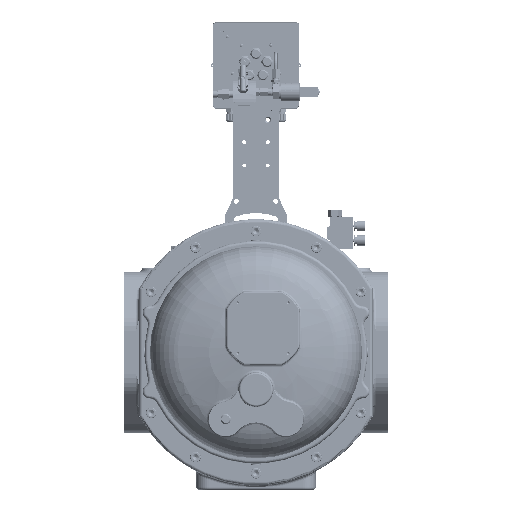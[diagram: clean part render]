
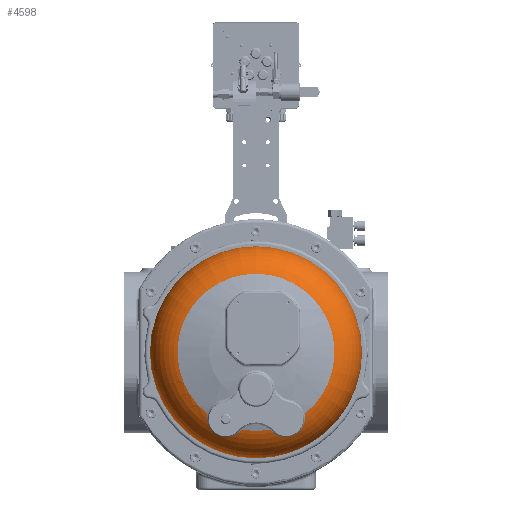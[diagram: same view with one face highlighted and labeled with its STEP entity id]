
A CAD part, left-side view. The second image highlights one B-rep face of the part: STEP entity #4598.
In plain terms, the highlighted toroidal (fillet/blend) face has major radius 113.213 mm and minor radius 67.949 mm.
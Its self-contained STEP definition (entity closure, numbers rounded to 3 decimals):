
#4598=ADVANCED_FACE('',(#300526,#300528),#300530,.T.);
#300526=FACE_OUTER_BOUND('',#300527,.T.);
#300527=EDGE_LOOP('',(#578187));
#300528=FACE_BOUND('',#300529,.T.);
#300529=EDGE_LOOP('',(#578188,#578189,#578190,#578191,#578192,#578193,#578194));
#300530=TOROIDAL_SURFACE('',#300531,113.213,67.949);
#300531=AXIS2_PLACEMENT_3D('',#300532,#300533,#300534);
#300532=CARTESIAN_POINT('',(-344.309,0.,0.));
#300533=DIRECTION('',(-1.,0.,0.));
#300534=DIRECTION('',(0.,0.,1.));
#578187=ORIENTED_EDGE('',*,*,#792199,.F.);
#578188=ORIENTED_EDGE('',*,*,#792200,.T.);
#578189=ORIENTED_EDGE('',*,*,#792166,.F.);
#578190=ORIENTED_EDGE('',*,*,#792165,.F.);
#578191=ORIENTED_EDGE('',*,*,#792201,.T.);
#578192=ORIENTED_EDGE('',*,*,#792202,.T.);
#578193=ORIENTED_EDGE('',*,*,#792203,.F.);
#578194=ORIENTED_EDGE('',*,*,#792204,.T.);
#792165=EDGE_CURVE('',#884358,#884360,#884361,.T.);
#792166=EDGE_CURVE('',#884360,#884350,#884362,.T.);
#792199=EDGE_CURVE('',#884418,#884418,#884419,.F.);
#792200=EDGE_CURVE('',#884420,#884350,#884421,.F.);
#792201=EDGE_CURVE('',#884358,#884422,#884423,.F.);
#792202=EDGE_CURVE('',#884422,#884424,#884425,.F.);
#792203=EDGE_CURVE('',#884426,#884424,#884427,.T.);
#792204=EDGE_CURVE('',#884426,#884420,#884428,.T.);
#884350=VERTEX_POINT('',#1055114);
#884358=VERTEX_POINT('',#1055171);
#884360=VERTEX_POINT('',#1055188);
#884361=CIRCLE('',#1055189,134.);
#884362=CIRCLE('',#1055193,134.);
#884418=VERTEX_POINT('',#1055659);
#884419=CIRCLE('',#1055660,181.);
#884420=VERTEX_POINT('',#1055664);
#884421=B_SPLINE_CURVE_WITH_KNOTS('',3,
(#1055665,#1055666,#1055667,#1055668,#1055669,#1055670,#1055671,#1055672,#1055673,
#1055674,#1055675,#1055676,#1055677,#1055678,#1055679,#1055680,#1055681,#1055682,
#1055683,#1055684,#1055685,#1055686,#1055687,#1055688,#1055689,#1055690,#1055691),
.UNSPECIFIED.,.F.,.F.,
(4,1,1,1,1,1,1,1,1,1,1,1,1,1,1,1,1,1,1,1,1,1,1,1,4),
(0.,0.067,0.125,0.179,0.233,0.284,
0.328,0.368,0.407,0.443,0.478,
0.51,0.539,0.564,0.593,0.624,
0.66,0.698,0.743,0.79,0.842,
0.89,0.934,0.969,1.),
.UNSPECIFIED.);
#884422=VERTEX_POINT('',#1055692);
#884423=B_SPLINE_CURVE_WITH_KNOTS('',3,
(#1055693,#1055694,#1055695,#1055696,#1055697,#1055698,#1055699,#1055700,#1055701,
#1055702,#1055703,#1055704,#1055705,#1055706,#1055707,#1055708,#1055709,#1055710,
#1055711,#1055712,#1055713,#1055714,#1055715,#1055716,#1055717,#1055718),
.UNSPECIFIED.,.F.,.F.,
(4,1,1,1,1,1,1,1,1,1,1,1,1,1,1,1,1,1,1,1,1,1,1,4),
(0.,0.074,0.138,0.188,0.237,0.28,
0.321,0.358,0.395,0.428,0.457,
0.481,0.506,0.533,0.565,0.601,
0.638,0.68,0.724,0.774,0.824,
0.875,0.934,1.),
.UNSPECIFIED.);
#884424=VERTEX_POINT('',#1055719);
#884425=B_SPLINE_CURVE_WITH_KNOTS('',3,
(#1055720,#1055721,#1055722,#1055723,#1055724,#1055725),
.UNSPECIFIED.,.F.,.F.,
(4,1,1,4),
(0.,0.333,0.667,1.),
.UNSPECIFIED.);
#884426=VERTEX_POINT('',#1055726);
#884427=CIRCLE('',#1055727,134.);
#884428=B_SPLINE_CURVE_WITH_KNOTS('',3,
(#1055731,#1055732,#1055733,#1055734,#1055735,#1055736,#1055737),
.UNSPECIFIED.,.F.,.F.,
(4,1,1,1,4),
(0.,0.333,0.667,0.889,1.),
.UNSPECIFIED.);
#1055114=CARTESIAN_POINT('',(-409.,82.998,-105.202));
#1055171=CARTESIAN_POINT('',(-409.,-82.998,-105.202));
#1055188=CARTESIAN_POINT('',(-409.,0.,134.));
#1055189=AXIS2_PLACEMENT_3D('',#1055190,#1055191,#1055192);
#1055190=CARTESIAN_POINT('',(-409.,0.,0.));
#1055191=DIRECTION('',(-1.,0.,0.));
#1055192=DIRECTION('',(0.,-0.619,-0.785));
#1055193=AXIS2_PLACEMENT_3D('',#1055194,#1055195,#1055196);
#1055194=CARTESIAN_POINT('',(-409.,0.,0.));
#1055195=DIRECTION('',(-1.,0.,0.));
#1055196=DIRECTION('',(0.,0.,1.));
#1055659=CARTESIAN_POINT('',(-349.,0.,181.));
#1055660=AXIS2_PLACEMENT_3D('',#1055661,#1055662,#1055663);
#1055661=CARTESIAN_POINT('',(-349.,0.,0.));
#1055662=DIRECTION('',(-1.,0.,0.));
#1055663=DIRECTION('',(0.,0.,1.));
#1055664=CARTESIAN_POINT('',(-407.921,26.7,-134.475));
#1055665=CARTESIAN_POINT('',(-409.,82.998,-105.202));
#1055666=CARTESIAN_POINT('',(-408.452,83.417,-107.041));
#1055667=CARTESIAN_POINT('',(-407.342,83.861,-110.527));
#1055668=CARTESIAN_POINT('',(-405.615,83.676,-115.479));
#1055669=CARTESIAN_POINT('',(-403.969,82.841,-119.986));
#1055670=CARTESIAN_POINT('',(-402.415,81.453,-124.158));
#1055671=CARTESIAN_POINT('',(-401.022,79.604,-127.931));
#1055672=CARTESIAN_POINT('',(-399.878,77.496,-131.157));
#1055673=CARTESIAN_POINT('',(-398.974,75.242,-133.897));
#1055674=CARTESIAN_POINT('',(-398.28,72.863,-136.25));
#1055675=CARTESIAN_POINT('',(-397.778,70.344,-138.292));
#1055676=CARTESIAN_POINT('',(-397.473,67.796,-139.986));
#1055677=CARTESIAN_POINT('',(-397.344,65.294,-141.346));
#1055678=CARTESIAN_POINT('',(-397.358,62.939,-142.39));
#1055679=CARTESIAN_POINT('',(-397.484,60.614,-143.224));
#1055680=CARTESIAN_POINT('',(-397.725,58.171,-143.905));
#1055681=CARTESIAN_POINT('',(-398.126,55.399,-144.448));
#1055682=CARTESIAN_POINT('',(-398.716,52.317,-144.771));
#1055683=CARTESIAN_POINT('',(-399.537,48.875,-144.793));
#1055684=CARTESIAN_POINT('',(-400.589,45.179,-144.418));
#1055685=CARTESIAN_POINT('',(-401.882,41.238,-143.54));
#1055686=CARTESIAN_POINT('',(-403.302,37.387,-142.151));
#1055687=CARTESIAN_POINT('',(-404.726,33.854,-140.338));
#1055688=CARTESIAN_POINT('',(-405.98,30.931,-138.374));
#1055689=CARTESIAN_POINT('',(-407.038,28.592,-136.407));
#1055690=CARTESIAN_POINT('',(-407.643,27.275,-135.114));
#1055691=CARTESIAN_POINT('',(-407.921,26.7,-134.475));
#1055692=CARTESIAN_POINT('',(-407.921,-26.7,-134.475));
#1055693=CARTESIAN_POINT('',(-407.921,-26.7,-134.475));
#1055694=CARTESIAN_POINT('',(-407.258,-28.073,-136.001));
#1055695=CARTESIAN_POINT('',(-405.953,-30.963,-138.525));
#1055696=CARTESIAN_POINT('',(-404.08,-35.399,-141.242));
#1055697=CARTESIAN_POINT('',(-402.477,-39.579,-143.008));
#1055698=CARTESIAN_POINT('',(-401.15,-43.41,-144.081));
#1055699=CARTESIAN_POINT('',(-400.015,-47.13,-144.663));
#1055700=CARTESIAN_POINT('',(-399.104,-50.606,-144.826));
#1055701=CARTESIAN_POINT('',(-398.384,-53.946,-144.64));
#1055702=CARTESIAN_POINT('',(-397.866,-57.058,-144.162));
#1055703=CARTESIAN_POINT('',(-397.539,-59.895,-143.453));
#1055704=CARTESIAN_POINT('',(-397.38,-62.349,-142.619));
#1055705=CARTESIAN_POINT('',(-397.341,-64.505,-141.709));
#1055706=CARTESIAN_POINT('',(-397.398,-66.558,-140.678));
#1055707=CARTESIAN_POINT('',(-397.567,-68.702,-139.409));
#1055708=CARTESIAN_POINT('',(-397.893,-71.004,-137.788));
#1055709=CARTESIAN_POINT('',(-398.407,-73.355,-135.796));
#1055710=CARTESIAN_POINT('',(-399.131,-75.686,-133.401));
#1055711=CARTESIAN_POINT('',(-400.065,-77.885,-130.619));
#1055712=CARTESIAN_POINT('',(-401.23,-79.914,-127.364));
#1055713=CARTESIAN_POINT('',(-402.581,-81.619,-123.714));
#1055714=CARTESIAN_POINT('',(-404.066,-82.897,-119.721));
#1055715=CARTESIAN_POINT('',(-405.66,-83.687,-115.352));
#1055716=CARTESIAN_POINT('',(-407.361,-83.856,-110.467));
#1055717=CARTESIAN_POINT('',(-408.462,-83.41,-107.01));
#1055718=CARTESIAN_POINT('',(-409.,-82.998,-105.202));
#1055719=CARTESIAN_POINT('',(-409.,-23.979,-131.837));
#1055720=CARTESIAN_POINT('',(-409.,-23.979,-131.837));
#1055721=CARTESIAN_POINT('',(-408.895,-24.304,-132.112));
#1055722=CARTESIAN_POINT('',(-408.671,-24.929,-132.685));
#1055723=CARTESIAN_POINT('',(-408.312,-25.84,-133.563));
#1055724=CARTESIAN_POINT('',(-408.054,-26.417,-134.169));
#1055725=CARTESIAN_POINT('',(-407.921,-26.7,-134.475));
#1055726=CARTESIAN_POINT('',(-409.,23.979,-131.837));
#1055727=AXIS2_PLACEMENT_3D('',#1055728,#1055729,#1055730);
#1055728=CARTESIAN_POINT('',(-409.,0.,0.));
#1055729=DIRECTION('',(-1.,0.,0.));
#1055730=DIRECTION('',(0.,0.179,-0.984));
#1055731=CARTESIAN_POINT('',(-409.,23.979,-131.837));
#1055732=CARTESIAN_POINT('',(-408.893,24.298,-132.118));
#1055733=CARTESIAN_POINT('',(-408.672,24.932,-132.682));
#1055734=CARTESIAN_POINT('',(-408.352,25.738,-133.466));
#1055735=CARTESIAN_POINT('',(-408.097,26.321,-134.068));
#1055736=CARTESIAN_POINT('',(-407.965,26.606,-134.373));
#1055737=CARTESIAN_POINT('',(-407.921,26.7,-134.475));
